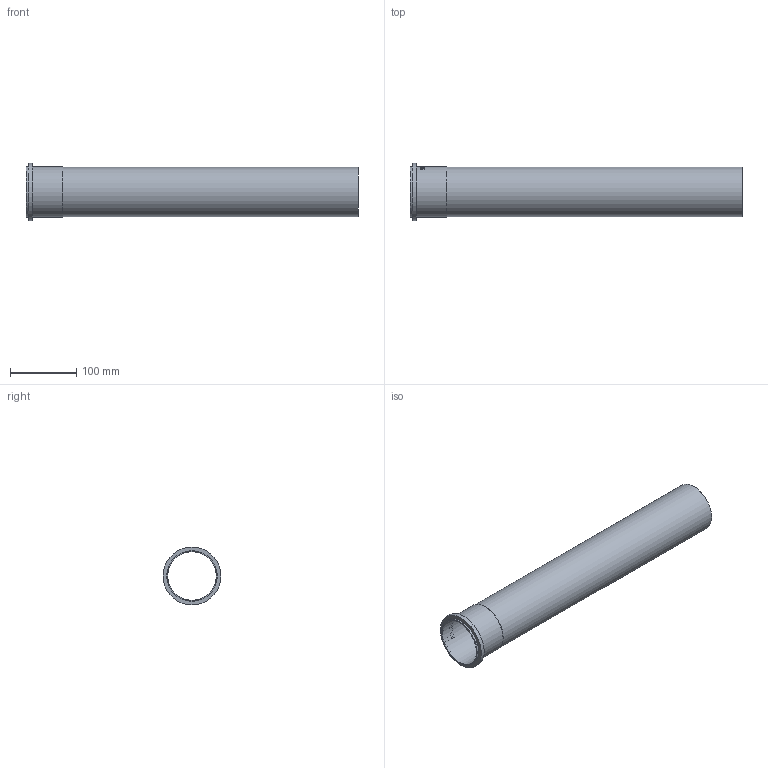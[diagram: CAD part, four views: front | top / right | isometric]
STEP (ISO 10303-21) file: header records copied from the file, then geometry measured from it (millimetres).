
FILE_DESCRIPTION((''),'2;1');
FILE_NAME('I:\WATTS\3D_CAD\3D_CAD_Models\Blucher_Drains\P_StraightPipe\WebsiteFiles\3D\STEP\P3-1.6-316.stp','2009-12-02T13:57:44',('menesek'),(''),'Autodesk Inventor 2010','Autodesk Inventor 2010','');
FILE_SCHEMA(('AUTOMOTIVE_DESIGN { 1 0 10303 214 1 1 1 1 }'));
Length unit declared in the file: inch
Products named in the file (1): P3-1.6-316
Bounding box: 500 x 87.12 x 87.12 mm (x, y, z)
Volume: 133695.9 mm3; surface area: 236238.6 mm2
Topology: 1 solids, 1 shells, 109 faces, 285 edges, 190 vertices
Faces by surface type: plane 59, bspline 34, cylinder 16
Full cylindrical faces by diameter (mm): 72.898 x1, 74.93 x1, 75.946 x2, 87.122 x1
Entity records: 13765 total; most frequent: CARTESIAN_POINT 11387, ORIENTED_EDGE 548, DIRECTION 356, EDGE_CURVE 274, VERTEX_POINT 186, EDGE_LOOP 128, AXIS2_PLACEMENT_3D 120, VECTOR 116
